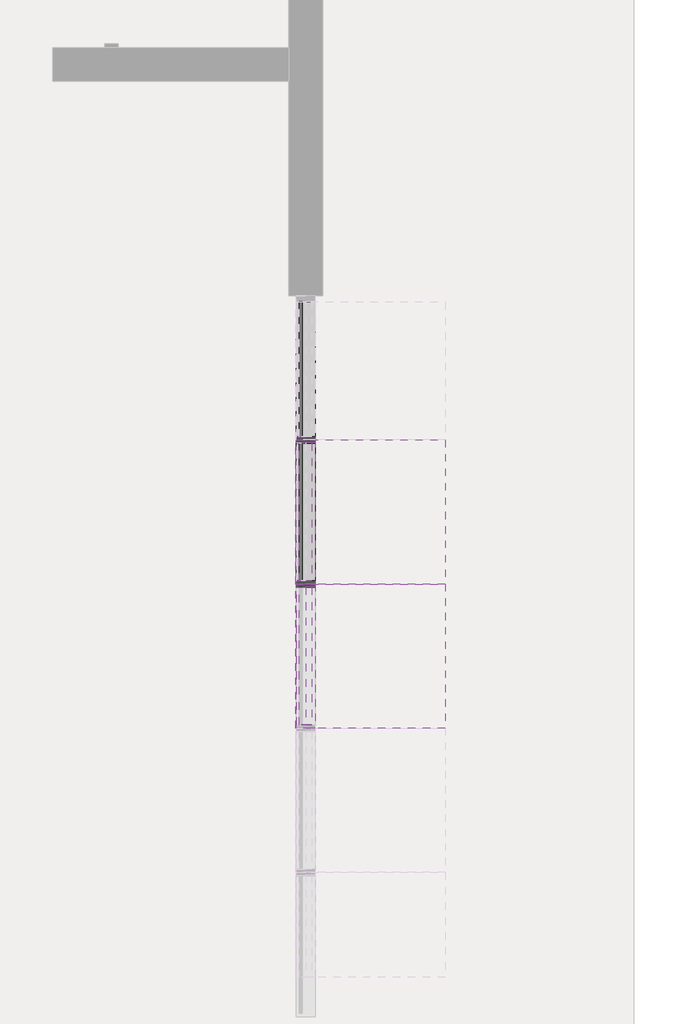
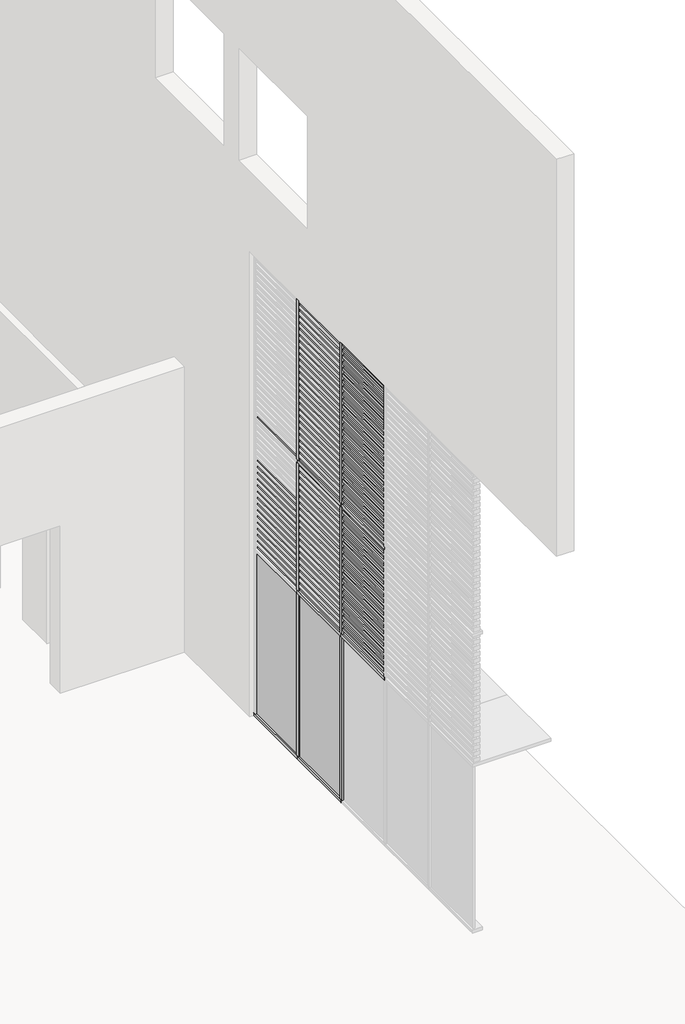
# One storey, part 6 of 8: 74 plates, 60 members.
"""IFC4 building model written with IfcOpenShell, lengths in millimetres."""

from ifc_helpers import new_model, si_unit, origin, place, context, project, spatial, transform, mapped, element, save
from components import rectangular_mullion_50_x_1200mm_b79d1996, rectangular_mullion_50_x_150mm_232fa5d8, rectangular_mullion_50_x_150mm_2c7bb3b8, rectangular_mullion_50_x_150mm_81a85930, rectangular_mullion_50_x_150mm_0b18dce2, rectangular_mullion_timber_70_x_35_2d2b050c, empty_system_panel_empty_6a0359b6, empty_system_panel_empty_0ae384b7, empty_system_panel_empty_f50b0574, empty_system_panel_empty_9ab0a9e8, system_panel_concept_glazed_32b225e3, system_panel_concept_glazed_5326a568

model = new_model("IFC4")

# Units and contexts
model_context = context("Model", 3, world=origin())
ifc_project = project(units=[si_unit("LENGTHUNIT", "METRE", prefix="MILLI")], contexts=[model_context])

# Site, building, storey
site = spatial("IfcSite", under=ifc_project)
building = spatial("IfcBuilding", under=site)
storey = spatial("IfcBuildingStorey", under=building, Name="0階", Elevation=25100.0)

# Members
placement = place(None, origin())
rectangular_mullion_50_x_1200mm_shape = rectangular_mullion_50_x_1200mm_b79d1996(model_context)
element("IfcMember", 1, ObjectType="Rectangular Mullion : 50 x 1200mm", at=placement, inside=storey, context=model_context, shape_type="MappedRepresentation", body=[
    mapped(rectangular_mullion_50_x_1200mm_shape, transform((45100.0, 6094.8041034, 27800.0), x_axis=(0.0, 0.0, 1.0), y_axis=(1.0, 0.0, 0.0), z_axis=(0.0, 1.0, 0.0))),
])
element("IfcMember", 2, ObjectType="Rectangular Mullion : 50 x 1200mm", at=placement, inside=storey, context=model_context, shape_type="MappedRepresentation", body=[
    mapped(rectangular_mullion_50_x_1200mm_shape, transform((45100.0, 7251.9469605, 27800.0), x_axis=(0.0, 0.0, 1.0), y_axis=(1.0, 0.0, 0.0), z_axis=(0.0, 1.0, 0.0))),
])
rectangular_mullion_50_x_150mm_shape = rectangular_mullion_50_x_150mm_232fa5d8(model_context)
element("IfcMember", 3, ObjectType="Rectangular Mullion : 50 x 150mm", at=placement, inside=storey, context=model_context, shape_type="MappedRepresentation", body=[
    mapped(rectangular_mullion_50_x_150mm_shape, transform((45100.0, 6094.8041034, 32600.0), x_axis=(0.0, 0.0, 1.0), y_axis=(1.0, 0.0, 0.0), z_axis=(0.0, 1.0, 0.0))),
])
element("IfcMember", 4, ObjectType="Rectangular Mullion : 50 x 150mm", at=placement, inside=storey, context=model_context, shape_type="MappedRepresentation", body=[
    mapped(rectangular_mullion_50_x_150mm_shape, transform((45100.0, 7251.9469605, 32600.0), x_axis=(0.0, 0.0, 1.0), y_axis=(1.0, 0.0, 0.0), z_axis=(0.0, 1.0, 0.0))),
])
element("IfcMember", 5, ObjectType="Rectangular Mullion : 50 x 150mm", at=placement, inside=storey, context=model_context, shape_type="MappedRepresentation", body=[
    mapped(rectangular_mullion_50_x_150mm_shape, transform((45100.0, 6094.8041034, 25100.0), x_axis=(0.0, 0.0, -1.0), y_axis=(1.0, 0.0, 0.0), z_axis=(0.0, -1.0, 0.0))),
])
element("IfcMember", 6, ObjectType="Rectangular Mullion : 50 x 150mm", at=placement, inside=storey, context=model_context, shape_type="MappedRepresentation", body=[
    mapped(rectangular_mullion_50_x_150mm_shape, transform((45100.0, 7251.9469605, 25100.0), x_axis=(0.0, 0.0, -1.0), y_axis=(1.0, 0.0, 0.0), z_axis=(0.0, -1.0, 0.0))),
])
rectangular_mullion_50_x_150mm_2_shape = rectangular_mullion_50_x_150mm_2c7bb3b8(model_context)
element("IfcMember", 7, ObjectType="Rectangular Mullion : 50 x 150mm", at=placement, inside=storey, context=model_context, shape_type="MappedRepresentation", body=[
    mapped(rectangular_mullion_50_x_150mm_2_shape, transform((45100.0, 6094.8041034, 25150.0), x_axis=(0.0, 1.0, 0.0), y_axis=(1.0, 0.0, 0.0), z_axis=(0.0, 0.0, -1.0))),
])
element("IfcMember", 8, ObjectType="Rectangular Mullion : 50 x 150mm", at=placement, inside=storey, context=model_context, shape_type="MappedRepresentation", body=[
    mapped(rectangular_mullion_50_x_150mm_2_shape, transform((45100.0, 7251.9469605, 25150.0), x_axis=(0.0, 1.0, 0.0), y_axis=(1.0, 0.0, 0.0), z_axis=(0.0, 0.0, -1.0))),
])
element("IfcMember", 9, ObjectType="Rectangular Mullion : 50 x 150mm", at=placement, inside=storey, context=model_context, shape_type="MappedRepresentation", body=[
    mapped(rectangular_mullion_50_x_150mm_2_shape, transform((45100.0, 6094.8041034, 29925.0), x_axis=(0.0, 1.0, 0.0), y_axis=(1.0, 0.0, 0.0), z_axis=(0.0, 0.0, -1.0))),
])
element("IfcMember", 10, ObjectType="Rectangular Mullion : 50 x 150mm", at=placement, inside=storey, context=model_context, shape_type="MappedRepresentation", body=[
    mapped(rectangular_mullion_50_x_150mm_2_shape, transform((45100.0, 7251.9469605, 29925.0), x_axis=(0.0, 1.0, 0.0), y_axis=(1.0, 0.0, 0.0), z_axis=(0.0, 0.0, -1.0))),
])
rectangular_mullion_50_x_150mm_3_shape = rectangular_mullion_50_x_150mm_81a85930(model_context)
element("IfcMember", 11, ObjectType="Rectangular Mullion : 50 x 150mm", at=placement, inside=storey, context=model_context, shape_type="MappedRepresentation", body=[
    mapped(rectangular_mullion_50_x_150mm_3_shape, transform((45100.0, 6094.8041034, 29900.0), x_axis=(0.0, 0.0, 1.0), y_axis=(1.0, 0.0, 0.0), z_axis=(0.0, 1.0, 0.0))),
])
element("IfcMember", 12, ObjectType="Rectangular Mullion : 50 x 150mm", at=placement, inside=storey, context=model_context, shape_type="MappedRepresentation", body=[
    mapped(rectangular_mullion_50_x_150mm_3_shape, transform((45100.0, 7251.9469605, 29900.0), x_axis=(0.0, 0.0, 1.0), y_axis=(1.0, 0.0, 0.0), z_axis=(0.0, 1.0, 0.0))),
])
rectangular_mullion_50_x_150mm_4_shape = rectangular_mullion_50_x_150mm_0b18dce2(model_context)
element("IfcMember", 13, ObjectType="Rectangular Mullion : 50 x 150mm", at=placement, inside=storey, context=model_context, shape_type="MappedRepresentation", body=[
    mapped(rectangular_mullion_50_x_150mm_4_shape, transform((45100.0, 6094.8041034, 27825.0), x_axis=(0.0, 1.0, 0.0), y_axis=(1.0, 0.0, 0.0), z_axis=(0.0, 0.0, -1.0))),
])
element("IfcMember", 14, ObjectType="Rectangular Mullion : 50 x 150mm", at=placement, inside=storey, context=model_context, shape_type="MappedRepresentation", body=[
    mapped(rectangular_mullion_50_x_150mm_4_shape, transform((45100.0, 7251.9469605, 27825.0), x_axis=(0.0, 1.0, 0.0), y_axis=(1.0, 0.0, 0.0), z_axis=(0.0, 0.0, -1.0))),
])
rectangular_mullion_timber_70_x_35_shape = rectangular_mullion_timber_70_x_35_2d2b050c(model_context)
element("IfcMember", 15, ObjectType="Rectangular Mullion : Timber - 70 x 35", at=placement, inside=storey, context=model_context, shape_type="MappedRepresentation", body=[
    mapped(rectangular_mullion_timber_70_x_35_shape, transform((45100.0, 6069.8041034, 27907.5), x_axis=(0.0, 0.0, 1.0), y_axis=(1.0, 0.0, 0.0), z_axis=(0.0, 1.0, 0.0))),
])
element("IfcMember", 16, ObjectType="Rectangular Mullion : Timber - 70 x 35", at=placement, inside=storey, context=model_context, shape_type="MappedRepresentation", body=[
    mapped(rectangular_mullion_timber_70_x_35_shape, transform((45100.0, 6069.8041034, 28007.5), x_axis=(0.0, 0.0, 1.0), y_axis=(1.0, 0.0, 0.0), z_axis=(0.0, 1.0, 0.0))),
])
element("IfcMember", 17, ObjectType="Rectangular Mullion : Timber - 70 x 35", at=placement, inside=storey, context=model_context, shape_type="MappedRepresentation", body=[
    mapped(rectangular_mullion_timber_70_x_35_shape, transform((45100.0, 6069.8041034, 28107.5), x_axis=(0.0, 0.0, 1.0), y_axis=(1.0, 0.0, 0.0), z_axis=(0.0, 1.0, 0.0))),
])
element("IfcMember", 18, ObjectType="Rectangular Mullion : Timber - 70 x 35", at=placement, inside=storey, context=model_context, shape_type="MappedRepresentation", body=[
    mapped(rectangular_mullion_timber_70_x_35_shape, transform((45100.0, 6069.8041034, 28207.5), x_axis=(0.0, 0.0, 1.0), y_axis=(1.0, 0.0, 0.0), z_axis=(0.0, 1.0, 0.0))),
])
element("IfcMember", 19, ObjectType="Rectangular Mullion : Timber - 70 x 35", at=placement, inside=storey, context=model_context, shape_type="MappedRepresentation", body=[
    mapped(rectangular_mullion_timber_70_x_35_shape, transform((45100.0, 6069.8041034, 28307.5), x_axis=(0.0, 0.0, 1.0), y_axis=(1.0, 0.0, 0.0), z_axis=(0.0, 1.0, 0.0))),
])
element("IfcMember", 20, ObjectType="Rectangular Mullion : Timber - 70 x 35", at=placement, inside=storey, context=model_context, shape_type="MappedRepresentation", body=[
    mapped(rectangular_mullion_timber_70_x_35_shape, transform((45100.0, 6069.8041034, 28407.5), x_axis=(0.0, 0.0, 1.0), y_axis=(1.0, 0.0, 0.0), z_axis=(0.0, 1.0, 0.0))),
])
element("IfcMember", 21, ObjectType="Rectangular Mullion : Timber - 70 x 35", at=placement, inside=storey, context=model_context, shape_type="MappedRepresentation", body=[
    mapped(rectangular_mullion_timber_70_x_35_shape, transform((45100.0, 6069.8041034, 28507.5), x_axis=(0.0, 0.0, 1.0), y_axis=(1.0, 0.0, 0.0), z_axis=(0.0, 1.0, 0.0))),
])
element("IfcMember", 22, ObjectType="Rectangular Mullion : Timber - 70 x 35", at=placement, inside=storey, context=model_context, shape_type="MappedRepresentation", body=[
    mapped(rectangular_mullion_timber_70_x_35_shape, transform((45100.0, 6069.8041034, 28607.5), x_axis=(0.0, 0.0, 1.0), y_axis=(1.0, 0.0, 0.0), z_axis=(0.0, 1.0, 0.0))),
])
element("IfcMember", 23, ObjectType="Rectangular Mullion : Timber - 70 x 35", at=placement, inside=storey, context=model_context, shape_type="MappedRepresentation", body=[
    mapped(rectangular_mullion_timber_70_x_35_shape, transform((45100.0, 6069.8041034, 28707.5), x_axis=(0.0, 0.0, 1.0), y_axis=(1.0, 0.0, 0.0), z_axis=(0.0, 1.0, 0.0))),
])
element("IfcMember", 24, ObjectType="Rectangular Mullion : Timber - 70 x 35", at=placement, inside=storey, context=model_context, shape_type="MappedRepresentation", body=[
    mapped(rectangular_mullion_timber_70_x_35_shape, transform((45100.0, 6069.8041034, 28807.5), x_axis=(0.0, 0.0, 1.0), y_axis=(1.0, 0.0, 0.0), z_axis=(0.0, 1.0, 0.0))),
])
element("IfcMember", 25, ObjectType="Rectangular Mullion : Timber - 70 x 35", at=placement, inside=storey, context=model_context, shape_type="MappedRepresentation", body=[
    mapped(rectangular_mullion_timber_70_x_35_shape, transform((45100.0, 6069.8041034, 28907.5), x_axis=(0.0, 0.0, 1.0), y_axis=(1.0, 0.0, 0.0), z_axis=(0.0, 1.0, 0.0))),
])
element("IfcMember", 26, ObjectType="Rectangular Mullion : Timber - 70 x 35", at=placement, inside=storey, context=model_context, shape_type="MappedRepresentation", body=[
    mapped(rectangular_mullion_timber_70_x_35_shape, transform((45100.0, 6069.8041034, 29007.5), x_axis=(0.0, 0.0, 1.0), y_axis=(1.0, 0.0, 0.0), z_axis=(0.0, 1.0, 0.0))),
])
element("IfcMember", 27, ObjectType="Rectangular Mullion : Timber - 70 x 35", at=placement, inside=storey, context=model_context, shape_type="MappedRepresentation", body=[
    mapped(rectangular_mullion_timber_70_x_35_shape, transform((45100.0, 6069.8041034, 29107.5), x_axis=(0.0, 0.0, 1.0), y_axis=(1.0, 0.0, 0.0), z_axis=(0.0, 1.0, 0.0))),
])
element("IfcMember", 28, ObjectType="Rectangular Mullion : Timber - 70 x 35", at=placement, inside=storey, context=model_context, shape_type="MappedRepresentation", body=[
    mapped(rectangular_mullion_timber_70_x_35_shape, transform((45100.0, 6069.8041034, 29207.5), x_axis=(0.0, 0.0, 1.0), y_axis=(1.0, 0.0, 0.0), z_axis=(0.0, 1.0, 0.0))),
])
element("IfcMember", 29, ObjectType="Rectangular Mullion : Timber - 70 x 35", at=placement, inside=storey, context=model_context, shape_type="MappedRepresentation", body=[
    mapped(rectangular_mullion_timber_70_x_35_shape, transform((45100.0, 6069.8041034, 29307.5), x_axis=(0.0, 0.0, 1.0), y_axis=(1.0, 0.0, 0.0), z_axis=(0.0, 1.0, 0.0))),
])
element("IfcMember", 30, ObjectType="Rectangular Mullion : Timber - 70 x 35", at=placement, inside=storey, context=model_context, shape_type="MappedRepresentation", body=[
    mapped(rectangular_mullion_timber_70_x_35_shape, transform((45100.0, 6069.8041034, 29407.5), x_axis=(0.0, 0.0, 1.0), y_axis=(1.0, 0.0, 0.0), z_axis=(0.0, 1.0, 0.0))),
])
element("IfcMember", 31, ObjectType="Rectangular Mullion : Timber - 70 x 35", at=placement, inside=storey, context=model_context, shape_type="MappedRepresentation", body=[
    mapped(rectangular_mullion_timber_70_x_35_shape, transform((45100.0, 6069.8041034, 29507.5), x_axis=(0.0, 0.0, 1.0), y_axis=(1.0, 0.0, 0.0), z_axis=(0.0, 1.0, 0.0))),
])
element("IfcMember", 32, ObjectType="Rectangular Mullion : Timber - 70 x 35", at=placement, inside=storey, context=model_context, shape_type="MappedRepresentation", body=[
    mapped(rectangular_mullion_timber_70_x_35_shape, transform((45100.0, 6069.8041034, 29607.5), x_axis=(0.0, 0.0, 1.0), y_axis=(1.0, 0.0, 0.0), z_axis=(0.0, 1.0, 0.0))),
])
element("IfcMember", 33, ObjectType="Rectangular Mullion : Timber - 70 x 35", at=placement, inside=storey, context=model_context, shape_type="MappedRepresentation", body=[
    mapped(rectangular_mullion_timber_70_x_35_shape, transform((45100.0, 6069.8041034, 29707.5), x_axis=(0.0, 0.0, 1.0), y_axis=(1.0, 0.0, 0.0), z_axis=(0.0, 1.0, 0.0))),
])
element("IfcMember", 34, ObjectType="Rectangular Mullion : Timber - 70 x 35", at=placement, inside=storey, context=model_context, shape_type="MappedRepresentation", body=[
    mapped(rectangular_mullion_timber_70_x_35_shape, transform((45100.0, 6069.8041034, 29807.5), x_axis=(0.0, 0.0, 1.0), y_axis=(1.0, 0.0, 0.0), z_axis=(0.0, 1.0, 0.0))),
])
element("IfcMember", 35, ObjectType="Rectangular Mullion : Timber - 70 x 35", at=placement, inside=storey, context=model_context, shape_type="MappedRepresentation", body=[
    mapped(rectangular_mullion_timber_70_x_35_shape, transform((45100.0, 6069.8041034, 30007.5), x_axis=(0.0, 0.0, 1.0), y_axis=(1.0, 0.0, 0.0), z_axis=(0.0, 1.0, 0.0))),
])
element("IfcMember", 36, ObjectType="Rectangular Mullion : Timber - 70 x 35", at=placement, inside=storey, context=model_context, shape_type="MappedRepresentation", body=[
    mapped(rectangular_mullion_timber_70_x_35_shape, transform((45100.0, 6069.8041034, 30107.5), x_axis=(0.0, 0.0, 1.0), y_axis=(1.0, 0.0, 0.0), z_axis=(0.0, 1.0, 0.0))),
])
element("IfcMember", 37, ObjectType="Rectangular Mullion : Timber - 70 x 35", at=placement, inside=storey, context=model_context, shape_type="MappedRepresentation", body=[
    mapped(rectangular_mullion_timber_70_x_35_shape, transform((45100.0, 6069.8041034, 30207.5), x_axis=(0.0, 0.0, 1.0), y_axis=(1.0, 0.0, 0.0), z_axis=(0.0, 1.0, 0.0))),
])
element("IfcMember", 38, ObjectType="Rectangular Mullion : Timber - 70 x 35", at=placement, inside=storey, context=model_context, shape_type="MappedRepresentation", body=[
    mapped(rectangular_mullion_timber_70_x_35_shape, transform((45100.0, 6069.8041034, 30307.5), x_axis=(0.0, 0.0, 1.0), y_axis=(1.0, 0.0, 0.0), z_axis=(0.0, 1.0, 0.0))),
])
element("IfcMember", 39, ObjectType="Rectangular Mullion : Timber - 70 x 35", at=placement, inside=storey, context=model_context, shape_type="MappedRepresentation", body=[
    mapped(rectangular_mullion_timber_70_x_35_shape, transform((45100.0, 6069.8041034, 30407.5), x_axis=(0.0, 0.0, 1.0), y_axis=(1.0, 0.0, 0.0), z_axis=(0.0, 1.0, 0.0))),
])
element("IfcMember", 40, ObjectType="Rectangular Mullion : Timber - 70 x 35", at=placement, inside=storey, context=model_context, shape_type="MappedRepresentation", body=[
    mapped(rectangular_mullion_timber_70_x_35_shape, transform((45100.0, 6069.8041034, 30507.5), x_axis=(0.0, 0.0, 1.0), y_axis=(1.0, 0.0, 0.0), z_axis=(0.0, 1.0, 0.0))),
])
element("IfcMember", 41, ObjectType="Rectangular Mullion : Timber - 70 x 35", at=placement, inside=storey, context=model_context, shape_type="MappedRepresentation", body=[
    mapped(rectangular_mullion_timber_70_x_35_shape, transform((45100.0, 6069.8041034, 30607.5), x_axis=(0.0, 0.0, 1.0), y_axis=(1.0, 0.0, 0.0), z_axis=(0.0, 1.0, 0.0))),
])
element("IfcMember", 42, ObjectType="Rectangular Mullion : Timber - 70 x 35", at=placement, inside=storey, context=model_context, shape_type="MappedRepresentation", body=[
    mapped(rectangular_mullion_timber_70_x_35_shape, transform((45100.0, 6069.8041034, 30707.5), x_axis=(0.0, 0.0, 1.0), y_axis=(1.0, 0.0, 0.0), z_axis=(0.0, 1.0, 0.0))),
])
element("IfcMember", 43, ObjectType="Rectangular Mullion : Timber - 70 x 35", at=placement, inside=storey, context=model_context, shape_type="MappedRepresentation", body=[
    mapped(rectangular_mullion_timber_70_x_35_shape, transform((45100.0, 6069.8041034, 30807.5), x_axis=(0.0, 0.0, 1.0), y_axis=(1.0, 0.0, 0.0), z_axis=(0.0, 1.0, 0.0))),
])
element("IfcMember", 44, ObjectType="Rectangular Mullion : Timber - 70 x 35", at=placement, inside=storey, context=model_context, shape_type="MappedRepresentation", body=[
    mapped(rectangular_mullion_timber_70_x_35_shape, transform((45100.0, 6069.8041034, 30907.5), x_axis=(0.0, 0.0, 1.0), y_axis=(1.0, 0.0, 0.0), z_axis=(0.0, 1.0, 0.0))),
])
element("IfcMember", 45, ObjectType="Rectangular Mullion : Timber - 70 x 35", at=placement, inside=storey, context=model_context, shape_type="MappedRepresentation", body=[
    mapped(rectangular_mullion_timber_70_x_35_shape, transform((45100.0, 6069.8041034, 31007.5), x_axis=(0.0, 0.0, 1.0), y_axis=(1.0, 0.0, 0.0), z_axis=(0.0, 1.0, 0.0))),
])
element("IfcMember", 46, ObjectType="Rectangular Mullion : Timber - 70 x 35", at=placement, inside=storey, context=model_context, shape_type="MappedRepresentation", body=[
    mapped(rectangular_mullion_timber_70_x_35_shape, transform((45100.0, 6069.8041034, 31107.5), x_axis=(0.0, 0.0, 1.0), y_axis=(1.0, 0.0, 0.0), z_axis=(0.0, 1.0, 0.0))),
])
element("IfcMember", 47, ObjectType="Rectangular Mullion : Timber - 70 x 35", at=placement, inside=storey, context=model_context, shape_type="MappedRepresentation", body=[
    mapped(rectangular_mullion_timber_70_x_35_shape, transform((45100.0, 6069.8041034, 31207.5), x_axis=(0.0, 0.0, 1.0), y_axis=(1.0, 0.0, 0.0), z_axis=(0.0, 1.0, 0.0))),
])
element("IfcMember", 48, ObjectType="Rectangular Mullion : Timber - 70 x 35", at=placement, inside=storey, context=model_context, shape_type="MappedRepresentation", body=[
    mapped(rectangular_mullion_timber_70_x_35_shape, transform((45100.0, 6069.8041034, 31307.5), x_axis=(0.0, 0.0, 1.0), y_axis=(1.0, 0.0, 0.0), z_axis=(0.0, 1.0, 0.0))),
])
element("IfcMember", 49, ObjectType="Rectangular Mullion : Timber - 70 x 35", at=placement, inside=storey, context=model_context, shape_type="MappedRepresentation", body=[
    mapped(rectangular_mullion_timber_70_x_35_shape, transform((45100.0, 6069.8041034, 31407.5), x_axis=(0.0, 0.0, 1.0), y_axis=(1.0, 0.0, 0.0), z_axis=(0.0, 1.0, 0.0))),
])
element("IfcMember", 50, ObjectType="Rectangular Mullion : Timber - 70 x 35", at=placement, inside=storey, context=model_context, shape_type="MappedRepresentation", body=[
    mapped(rectangular_mullion_timber_70_x_35_shape, transform((45100.0, 6069.8041034, 31507.5), x_axis=(0.0, 0.0, 1.0), y_axis=(1.0, 0.0, 0.0), z_axis=(0.0, 1.0, 0.0))),
])
element("IfcMember", 51, ObjectType="Rectangular Mullion : Timber - 70 x 35", at=placement, inside=storey, context=model_context, shape_type="MappedRepresentation", body=[
    mapped(rectangular_mullion_timber_70_x_35_shape, transform((45100.0, 6069.8041034, 31607.5), x_axis=(0.0, 0.0, 1.0), y_axis=(1.0, 0.0, 0.0), z_axis=(0.0, 1.0, 0.0))),
])
element("IfcMember", 52, ObjectType="Rectangular Mullion : Timber - 70 x 35", at=placement, inside=storey, context=model_context, shape_type="MappedRepresentation", body=[
    mapped(rectangular_mullion_timber_70_x_35_shape, transform((45100.0, 6069.8041034, 31707.5), x_axis=(0.0, 0.0, 1.0), y_axis=(1.0, 0.0, 0.0), z_axis=(0.0, 1.0, 0.0))),
])
element("IfcMember", 53, ObjectType="Rectangular Mullion : Timber - 70 x 35", at=placement, inside=storey, context=model_context, shape_type="MappedRepresentation", body=[
    mapped(rectangular_mullion_timber_70_x_35_shape, transform((45100.0, 6069.8041034, 31807.5), x_axis=(0.0, 0.0, 1.0), y_axis=(1.0, 0.0, 0.0), z_axis=(0.0, 1.0, 0.0))),
])
element("IfcMember", 54, ObjectType="Rectangular Mullion : Timber - 70 x 35", at=placement, inside=storey, context=model_context, shape_type="MappedRepresentation", body=[
    mapped(rectangular_mullion_timber_70_x_35_shape, transform((45100.0, 6069.8041034, 31907.5), x_axis=(0.0, 0.0, 1.0), y_axis=(1.0, 0.0, 0.0), z_axis=(0.0, 1.0, 0.0))),
])
element("IfcMember", 55, ObjectType="Rectangular Mullion : Timber - 70 x 35", at=placement, inside=storey, context=model_context, shape_type="MappedRepresentation", body=[
    mapped(rectangular_mullion_timber_70_x_35_shape, transform((45100.0, 6069.8041034, 32007.5), x_axis=(0.0, 0.0, 1.0), y_axis=(1.0, 0.0, 0.0), z_axis=(0.0, 1.0, 0.0))),
])
element("IfcMember", 56, ObjectType="Rectangular Mullion : Timber - 70 x 35", at=placement, inside=storey, context=model_context, shape_type="MappedRepresentation", body=[
    mapped(rectangular_mullion_timber_70_x_35_shape, transform((45100.0, 6069.8041034, 32107.5), x_axis=(0.0, 0.0, 1.0), y_axis=(1.0, 0.0, 0.0), z_axis=(0.0, 1.0, 0.0))),
])
element("IfcMember", 57, ObjectType="Rectangular Mullion : Timber - 70 x 35", at=placement, inside=storey, context=model_context, shape_type="MappedRepresentation", body=[
    mapped(rectangular_mullion_timber_70_x_35_shape, transform((45100.0, 6069.8041034, 32207.5), x_axis=(0.0, 0.0, 1.0), y_axis=(1.0, 0.0, 0.0), z_axis=(0.0, 1.0, 0.0))),
])
element("IfcMember", 58, ObjectType="Rectangular Mullion : Timber - 70 x 35", at=placement, inside=storey, context=model_context, shape_type="MappedRepresentation", body=[
    mapped(rectangular_mullion_timber_70_x_35_shape, transform((45100.0, 6069.8041034, 32307.5), x_axis=(0.0, 0.0, 1.0), y_axis=(1.0, 0.0, 0.0), z_axis=(0.0, 1.0, 0.0))),
])
element("IfcMember", 59, ObjectType="Rectangular Mullion : Timber - 70 x 35", at=placement, inside=storey, context=model_context, shape_type="MappedRepresentation", body=[
    mapped(rectangular_mullion_timber_70_x_35_shape, transform((45100.0, 6069.8041034, 32407.5), x_axis=(0.0, 0.0, 1.0), y_axis=(1.0, 0.0, 0.0), z_axis=(0.0, 1.0, 0.0))),
])
element("IfcMember", 60, ObjectType="Rectangular Mullion : Timber - 70 x 35", at=placement, inside=storey, context=model_context, shape_type="MappedRepresentation", body=[
    mapped(rectangular_mullion_timber_70_x_35_shape, transform((45100.0, 6069.8041034, 32507.5), x_axis=(0.0, 0.0, 1.0), y_axis=(1.0, 0.0, 0.0), z_axis=(0.0, 1.0, 0.0))),
])

# Plates
empty_system_panel_empty_shape = empty_system_panel_empty_6a0359b6(model_context)
element("IfcPlate", 61, ObjectType="Empty System Panel : Empty", at=placement, inside=storey, context=model_context, shape_type="MappedRepresentation", body=[
    mapped(empty_system_panel_empty_shape, transform((45100.0, 7818.0183891, 27825.0), x_axis=(0.0, 1.0, 0.0), y_axis=(-1.0, 0.0, 0.0), z_axis=(0.0, 0.0, 1.0))),
])
element("IfcPlate", 62, ObjectType="Empty System Panel : Empty", at=placement, inside=storey, context=model_context, shape_type="MappedRepresentation", body=[
    mapped(empty_system_panel_empty_shape, transform((45100.0, 7818.0183891, 29925.0), x_axis=(0.0, 1.0, 0.0), y_axis=(-1.0, 0.0, 0.0), z_axis=(0.0, 0.0, 1.0))),
])
element("IfcPlate", 63, ObjectType="Empty System Panel : Empty", at=placement, inside=storey, context=model_context, shape_type="MappedRepresentation", body=[
    mapped(empty_system_panel_empty_shape, transform((45100.0, 7818.0183891, 27925.0), x_axis=(0.0, 1.0, 0.0), y_axis=(-1.0, 0.0, 0.0), z_axis=(0.0, 0.0, 1.0))),
])
element("IfcPlate", 64, ObjectType="Empty System Panel : Empty", at=placement, inside=storey, context=model_context, shape_type="MappedRepresentation", body=[
    mapped(empty_system_panel_empty_shape, transform((45100.0, 7818.0183891, 28025.0), x_axis=(0.0, 1.0, 0.0), y_axis=(-1.0, 0.0, 0.0), z_axis=(0.0, 0.0, 1.0))),
])
element("IfcPlate", 65, ObjectType="Empty System Panel : Empty", at=placement, inside=storey, context=model_context, shape_type="MappedRepresentation", body=[
    mapped(empty_system_panel_empty_shape, transform((45100.0, 7818.0183891, 28125.0), x_axis=(0.0, 1.0, 0.0), y_axis=(-1.0, 0.0, 0.0), z_axis=(0.0, 0.0, 1.0))),
])
element("IfcPlate", 66, ObjectType="Empty System Panel : Empty", at=placement, inside=storey, context=model_context, shape_type="MappedRepresentation", body=[
    mapped(empty_system_panel_empty_shape, transform((45100.0, 7818.0183891, 28225.0), x_axis=(0.0, 1.0, 0.0), y_axis=(-1.0, 0.0, 0.0), z_axis=(0.0, 0.0, 1.0))),
])
element("IfcPlate", 67, ObjectType="Empty System Panel : Empty", at=placement, inside=storey, context=model_context, shape_type="MappedRepresentation", body=[
    mapped(empty_system_panel_empty_shape, transform((45100.0, 7818.0183891, 28325.0), x_axis=(0.0, 1.0, 0.0), y_axis=(-1.0, 0.0, 0.0), z_axis=(0.0, 0.0, 1.0))),
])
element("IfcPlate", 68, ObjectType="Empty System Panel : Empty", at=placement, inside=storey, context=model_context, shape_type="MappedRepresentation", body=[
    mapped(empty_system_panel_empty_shape, transform((45100.0, 7818.0183891, 28425.0), x_axis=(0.0, 1.0, 0.0), y_axis=(-1.0, 0.0, 0.0), z_axis=(0.0, 0.0, 1.0))),
])
element("IfcPlate", 69, ObjectType="Empty System Panel : Empty", at=placement, inside=storey, context=model_context, shape_type="MappedRepresentation", body=[
    mapped(empty_system_panel_empty_shape, transform((45100.0, 7818.0183891, 28525.0), x_axis=(0.0, 1.0, 0.0), y_axis=(-1.0, 0.0, 0.0), z_axis=(0.0, 0.0, 1.0))),
])
element("IfcPlate", 70, ObjectType="Empty System Panel : Empty", at=placement, inside=storey, context=model_context, shape_type="MappedRepresentation", body=[
    mapped(empty_system_panel_empty_shape, transform((45100.0, 7818.0183891, 28625.0), x_axis=(0.0, 1.0, 0.0), y_axis=(-1.0, 0.0, 0.0), z_axis=(0.0, 0.0, 1.0))),
])
element("IfcPlate", 71, ObjectType="Empty System Panel : Empty", at=placement, inside=storey, context=model_context, shape_type="MappedRepresentation", body=[
    mapped(empty_system_panel_empty_shape, transform((45100.0, 7818.0183891, 28725.0), x_axis=(0.0, 1.0, 0.0), y_axis=(-1.0, 0.0, 0.0), z_axis=(0.0, 0.0, 1.0))),
])
element("IfcPlate", 72, ObjectType="Empty System Panel : Empty", at=placement, inside=storey, context=model_context, shape_type="MappedRepresentation", body=[
    mapped(empty_system_panel_empty_shape, transform((45100.0, 7818.0183891, 28825.0), x_axis=(0.0, 1.0, 0.0), y_axis=(-1.0, 0.0, 0.0), z_axis=(0.0, 0.0, 1.0))),
])
element("IfcPlate", 73, ObjectType="Empty System Panel : Empty", at=placement, inside=storey, context=model_context, shape_type="MappedRepresentation", body=[
    mapped(empty_system_panel_empty_shape, transform((45100.0, 7818.0183891, 28925.0), x_axis=(0.0, 1.0, 0.0), y_axis=(-1.0, 0.0, 0.0), z_axis=(0.0, 0.0, 1.0))),
])
element("IfcPlate", 74, ObjectType="Empty System Panel : Empty", at=placement, inside=storey, context=model_context, shape_type="MappedRepresentation", body=[
    mapped(empty_system_panel_empty_shape, transform((45100.0, 7818.0183891, 29025.0), x_axis=(0.0, 1.0, 0.0), y_axis=(-1.0, 0.0, 0.0), z_axis=(0.0, 0.0, 1.0))),
])
element("IfcPlate", 75, ObjectType="Empty System Panel : Empty", at=placement, inside=storey, context=model_context, shape_type="MappedRepresentation", body=[
    mapped(empty_system_panel_empty_shape, transform((45100.0, 7818.0183891, 29125.0), x_axis=(0.0, 1.0, 0.0), y_axis=(-1.0, 0.0, 0.0), z_axis=(0.0, 0.0, 1.0))),
])
element("IfcPlate", 76, ObjectType="Empty System Panel : Empty", at=placement, inside=storey, context=model_context, shape_type="MappedRepresentation", body=[
    mapped(empty_system_panel_empty_shape, transform((45100.0, 7818.0183891, 29225.0), x_axis=(0.0, 1.0, 0.0), y_axis=(-1.0, 0.0, 0.0), z_axis=(0.0, 0.0, 1.0))),
])
empty_system_panel_empty_2_shape = empty_system_panel_empty_0ae384b7(model_context)
element("IfcPlate", 77, ObjectType="Empty System Panel : Empty", at=placement, inside=storey, context=model_context, shape_type="MappedRepresentation", body=[
    mapped(empty_system_panel_empty_2_shape, transform((45100.0, 6673.3755319, 29825.0), x_axis=(0.0, 1.0, 0.0), y_axis=(-1.0, 0.0, 0.0), z_axis=(0.0, 0.0, 1.0))),
])
empty_system_panel_empty_3_shape = empty_system_panel_empty_f50b0574(model_context)
element("IfcPlate", 78, ObjectType="Empty System Panel : Empty", at=placement, inside=storey, context=model_context, shape_type="MappedRepresentation", body=[
    mapped(empty_system_panel_empty_3_shape, transform((45100.0, 5516.2326748, 32525.0), x_axis=(0.0, 1.0, 0.0), y_axis=(-1.0, 0.0, 0.0), z_axis=(0.0, 0.0, 1.0))),
])
element("IfcPlate", 79, ObjectType="Empty System Panel : Empty", at=placement, inside=storey, context=model_context, shape_type="MappedRepresentation", body=[
    mapped(empty_system_panel_empty_3_shape, transform((45100.0, 6673.3755319, 32525.0), x_axis=(0.0, 1.0, 0.0), y_axis=(-1.0, 0.0, 0.0), z_axis=(0.0, 0.0, 1.0))),
])
empty_system_panel_empty_4_shape = empty_system_panel_empty_9ab0a9e8(model_context)
element("IfcPlate", 80, ObjectType="Empty System Panel : Empty", at=placement, inside=storey, context=model_context, shape_type="MappedRepresentation", body=[
    mapped(empty_system_panel_empty_4_shape, transform((45100.0, 6673.3755319, 27825.0), x_axis=(0.0, 1.0, 0.0), y_axis=(-1.0, 0.0, 0.0), z_axis=(0.0, 0.0, 1.0))),
])
element("IfcPlate", 81, ObjectType="Empty System Panel : Empty", at=placement, inside=storey, context=model_context, shape_type="MappedRepresentation", body=[
    mapped(empty_system_panel_empty_4_shape, transform((45100.0, 6673.3755319, 29925.0), x_axis=(0.0, 1.0, 0.0), y_axis=(-1.0, 0.0, 0.0), z_axis=(0.0, 0.0, 1.0))),
])
element("IfcPlate", 82, ObjectType="Empty System Panel : Empty", at=placement, inside=storey, context=model_context, shape_type="MappedRepresentation", body=[
    mapped(empty_system_panel_empty_4_shape, transform((45100.0, 6673.3755319, 27925.0), x_axis=(0.0, 1.0, 0.0), y_axis=(-1.0, 0.0, 0.0), z_axis=(0.0, 0.0, 1.0))),
])
element("IfcPlate", 83, ObjectType="Empty System Panel : Empty", at=placement, inside=storey, context=model_context, shape_type="MappedRepresentation", body=[
    mapped(empty_system_panel_empty_4_shape, transform((45100.0, 6673.3755319, 28025.0), x_axis=(0.0, 1.0, 0.0), y_axis=(-1.0, 0.0, 0.0), z_axis=(0.0, 0.0, 1.0))),
])
element("IfcPlate", 84, ObjectType="Empty System Panel : Empty", at=placement, inside=storey, context=model_context, shape_type="MappedRepresentation", body=[
    mapped(empty_system_panel_empty_4_shape, transform((45100.0, 6673.3755319, 28125.0), x_axis=(0.0, 1.0, 0.0), y_axis=(-1.0, 0.0, 0.0), z_axis=(0.0, 0.0, 1.0))),
])
element("IfcPlate", 85, ObjectType="Empty System Panel : Empty", at=placement, inside=storey, context=model_context, shape_type="MappedRepresentation", body=[
    mapped(empty_system_panel_empty_4_shape, transform((45100.0, 6673.3755319, 28225.0), x_axis=(0.0, 1.0, 0.0), y_axis=(-1.0, 0.0, 0.0), z_axis=(0.0, 0.0, 1.0))),
])
element("IfcPlate", 86, ObjectType="Empty System Panel : Empty", at=placement, inside=storey, context=model_context, shape_type="MappedRepresentation", body=[
    mapped(empty_system_panel_empty_4_shape, transform((45100.0, 6673.3755319, 28325.0), x_axis=(0.0, 1.0, 0.0), y_axis=(-1.0, 0.0, 0.0), z_axis=(0.0, 0.0, 1.0))),
])
element("IfcPlate", 87, ObjectType="Empty System Panel : Empty", at=placement, inside=storey, context=model_context, shape_type="MappedRepresentation", body=[
    mapped(empty_system_panel_empty_4_shape, transform((45100.0, 6673.3755319, 28425.0), x_axis=(0.0, 1.0, 0.0), y_axis=(-1.0, 0.0, 0.0), z_axis=(0.0, 0.0, 1.0))),
])
element("IfcPlate", 88, ObjectType="Empty System Panel : Empty", at=placement, inside=storey, context=model_context, shape_type="MappedRepresentation", body=[
    mapped(empty_system_panel_empty_4_shape, transform((45100.0, 6673.3755319, 28525.0), x_axis=(0.0, 1.0, 0.0), y_axis=(-1.0, 0.0, 0.0), z_axis=(0.0, 0.0, 1.0))),
])
element("IfcPlate", 89, ObjectType="Empty System Panel : Empty", at=placement, inside=storey, context=model_context, shape_type="MappedRepresentation", body=[
    mapped(empty_system_panel_empty_4_shape, transform((45100.0, 6673.3755319, 28625.0), x_axis=(0.0, 1.0, 0.0), y_axis=(-1.0, 0.0, 0.0), z_axis=(0.0, 0.0, 1.0))),
])
element("IfcPlate", 90, ObjectType="Empty System Panel : Empty", at=placement, inside=storey, context=model_context, shape_type="MappedRepresentation", body=[
    mapped(empty_system_panel_empty_4_shape, transform((45100.0, 6673.3755319, 28725.0), x_axis=(0.0, 1.0, 0.0), y_axis=(-1.0, 0.0, 0.0), z_axis=(0.0, 0.0, 1.0))),
])
element("IfcPlate", 91, ObjectType="Empty System Panel : Empty", at=placement, inside=storey, context=model_context, shape_type="MappedRepresentation", body=[
    mapped(empty_system_panel_empty_4_shape, transform((45100.0, 6673.3755319, 28825.0), x_axis=(0.0, 1.0, 0.0), y_axis=(-1.0, 0.0, 0.0), z_axis=(0.0, 0.0, 1.0))),
])
element("IfcPlate", 92, ObjectType="Empty System Panel : Empty", at=placement, inside=storey, context=model_context, shape_type="MappedRepresentation", body=[
    mapped(empty_system_panel_empty_4_shape, transform((45100.0, 6673.3755319, 28925.0), x_axis=(0.0, 1.0, 0.0), y_axis=(-1.0, 0.0, 0.0), z_axis=(0.0, 0.0, 1.0))),
])
element("IfcPlate", 93, ObjectType="Empty System Panel : Empty", at=placement, inside=storey, context=model_context, shape_type="MappedRepresentation", body=[
    mapped(empty_system_panel_empty_4_shape, transform((45100.0, 6673.3755319, 29025.0), x_axis=(0.0, 1.0, 0.0), y_axis=(-1.0, 0.0, 0.0), z_axis=(0.0, 0.0, 1.0))),
])
element("IfcPlate", 94, ObjectType="Empty System Panel : Empty", at=placement, inside=storey, context=model_context, shape_type="MappedRepresentation", body=[
    mapped(empty_system_panel_empty_4_shape, transform((45100.0, 6673.3755319, 29125.0), x_axis=(0.0, 1.0, 0.0), y_axis=(-1.0, 0.0, 0.0), z_axis=(0.0, 0.0, 1.0))),
])
element("IfcPlate", 95, ObjectType="Empty System Panel : Empty", at=placement, inside=storey, context=model_context, shape_type="MappedRepresentation", body=[
    mapped(empty_system_panel_empty_4_shape, transform((45100.0, 6673.3755319, 29225.0), x_axis=(0.0, 1.0, 0.0), y_axis=(-1.0, 0.0, 0.0), z_axis=(0.0, 0.0, 1.0))),
])
element("IfcPlate", 96, ObjectType="Empty System Panel : Empty", at=placement, inside=storey, context=model_context, shape_type="MappedRepresentation", body=[
    mapped(empty_system_panel_empty_4_shape, transform((45100.0, 6673.3755319, 29325.0), x_axis=(0.0, 1.0, 0.0), y_axis=(-1.0, 0.0, 0.0), z_axis=(0.0, 0.0, 1.0))),
])
element("IfcPlate", 97, ObjectType="Empty System Panel : Empty", at=placement, inside=storey, context=model_context, shape_type="MappedRepresentation", body=[
    mapped(empty_system_panel_empty_4_shape, transform((45100.0, 6673.3755319, 29425.0), x_axis=(0.0, 1.0, 0.0), y_axis=(-1.0, 0.0, 0.0), z_axis=(0.0, 0.0, 1.0))),
])
element("IfcPlate", 98, ObjectType="Empty System Panel : Empty", at=placement, inside=storey, context=model_context, shape_type="MappedRepresentation", body=[
    mapped(empty_system_panel_empty_4_shape, transform((45100.0, 6673.3755319, 29525.0), x_axis=(0.0, 1.0, 0.0), y_axis=(-1.0, 0.0, 0.0), z_axis=(0.0, 0.0, 1.0))),
])
element("IfcPlate", 99, ObjectType="Empty System Panel : Empty", at=placement, inside=storey, context=model_context, shape_type="MappedRepresentation", body=[
    mapped(empty_system_panel_empty_4_shape, transform((45100.0, 6673.3755319, 29625.0), x_axis=(0.0, 1.0, 0.0), y_axis=(-1.0, 0.0, 0.0), z_axis=(0.0, 0.0, 1.0))),
])
element("IfcPlate", 100, ObjectType="Empty System Panel : Empty", at=placement, inside=storey, context=model_context, shape_type="MappedRepresentation", body=[
    mapped(empty_system_panel_empty_4_shape, transform((45100.0, 6673.3755319, 29725.0), x_axis=(0.0, 1.0, 0.0), y_axis=(-1.0, 0.0, 0.0), z_axis=(0.0, 0.0, 1.0))),
])
element("IfcPlate", 101, ObjectType="Empty System Panel : Empty", at=placement, inside=storey, context=model_context, shape_type="MappedRepresentation", body=[
    mapped(empty_system_panel_empty_4_shape, transform((45100.0, 5516.2326748, 31825.0), x_axis=(0.0, 1.0, 0.0), y_axis=(-1.0, 0.0, 0.0), z_axis=(0.0, 0.0, 1.0))),
])
element("IfcPlate", 102, ObjectType="Empty System Panel : Empty", at=placement, inside=storey, context=model_context, shape_type="MappedRepresentation", body=[
    mapped(empty_system_panel_empty_4_shape, transform((45100.0, 5516.2326748, 31925.0), x_axis=(0.0, 1.0, 0.0), y_axis=(-1.0, 0.0, 0.0), z_axis=(0.0, 0.0, 1.0))),
])
element("IfcPlate", 103, ObjectType="Empty System Panel : Empty", at=placement, inside=storey, context=model_context, shape_type="MappedRepresentation", body=[
    mapped(empty_system_panel_empty_4_shape, transform((45100.0, 5516.2326748, 32025.0), x_axis=(0.0, 1.0, 0.0), y_axis=(-1.0, 0.0, 0.0), z_axis=(0.0, 0.0, 1.0))),
])
element("IfcPlate", 104, ObjectType="Empty System Panel : Empty", at=placement, inside=storey, context=model_context, shape_type="MappedRepresentation", body=[
    mapped(empty_system_panel_empty_4_shape, transform((45100.0, 5516.2326748, 32125.0), x_axis=(0.0, 1.0, 0.0), y_axis=(-1.0, 0.0, 0.0), z_axis=(0.0, 0.0, 1.0))),
])
element("IfcPlate", 105, ObjectType="Empty System Panel : Empty", at=placement, inside=storey, context=model_context, shape_type="MappedRepresentation", body=[
    mapped(empty_system_panel_empty_4_shape, transform((45100.0, 5516.2326748, 32225.0), x_axis=(0.0, 1.0, 0.0), y_axis=(-1.0, 0.0, 0.0), z_axis=(0.0, 0.0, 1.0))),
])
element("IfcPlate", 106, ObjectType="Empty System Panel : Empty", at=placement, inside=storey, context=model_context, shape_type="MappedRepresentation", body=[
    mapped(empty_system_panel_empty_4_shape, transform((45100.0, 5516.2326748, 32325.0), x_axis=(0.0, 1.0, 0.0), y_axis=(-1.0, 0.0, 0.0), z_axis=(0.0, 0.0, 1.0))),
])
element("IfcPlate", 107, ObjectType="Empty System Panel : Empty", at=placement, inside=storey, context=model_context, shape_type="MappedRepresentation", body=[
    mapped(empty_system_panel_empty_4_shape, transform((45100.0, 5516.2326748, 32425.0), x_axis=(0.0, 1.0, 0.0), y_axis=(-1.0, 0.0, 0.0), z_axis=(0.0, 0.0, 1.0))),
])
element("IfcPlate", 108, ObjectType="Empty System Panel : Empty", at=placement, inside=storey, context=model_context, shape_type="MappedRepresentation", body=[
    mapped(empty_system_panel_empty_4_shape, transform((45100.0, 6673.3755319, 30025.0), x_axis=(0.0, 1.0, 0.0), y_axis=(-1.0, 0.0, 0.0), z_axis=(0.0, 0.0, 1.0))),
])
element("IfcPlate", 109, ObjectType="Empty System Panel : Empty", at=placement, inside=storey, context=model_context, shape_type="MappedRepresentation", body=[
    mapped(empty_system_panel_empty_4_shape, transform((45100.0, 6673.3755319, 30125.0), x_axis=(0.0, 1.0, 0.0), y_axis=(-1.0, 0.0, 0.0), z_axis=(0.0, 0.0, 1.0))),
])
element("IfcPlate", 110, ObjectType="Empty System Panel : Empty", at=placement, inside=storey, context=model_context, shape_type="MappedRepresentation", body=[
    mapped(empty_system_panel_empty_4_shape, transform((45100.0, 6673.3755319, 30225.0), x_axis=(0.0, 1.0, 0.0), y_axis=(-1.0, 0.0, 0.0), z_axis=(0.0, 0.0, 1.0))),
])
element("IfcPlate", 111, ObjectType="Empty System Panel : Empty", at=placement, inside=storey, context=model_context, shape_type="MappedRepresentation", body=[
    mapped(empty_system_panel_empty_4_shape, transform((45100.0, 6673.3755319, 30325.0), x_axis=(0.0, 1.0, 0.0), y_axis=(-1.0, 0.0, 0.0), z_axis=(0.0, 0.0, 1.0))),
])
element("IfcPlate", 112, ObjectType="Empty System Panel : Empty", at=placement, inside=storey, context=model_context, shape_type="MappedRepresentation", body=[
    mapped(empty_system_panel_empty_4_shape, transform((45100.0, 6673.3755319, 30425.0), x_axis=(0.0, 1.0, 0.0), y_axis=(-1.0, 0.0, 0.0), z_axis=(0.0, 0.0, 1.0))),
])
element("IfcPlate", 113, ObjectType="Empty System Panel : Empty", at=placement, inside=storey, context=model_context, shape_type="MappedRepresentation", body=[
    mapped(empty_system_panel_empty_4_shape, transform((45100.0, 6673.3755319, 30525.0), x_axis=(0.0, 1.0, 0.0), y_axis=(-1.0, 0.0, 0.0), z_axis=(0.0, 0.0, 1.0))),
])
element("IfcPlate", 114, ObjectType="Empty System Panel : Empty", at=placement, inside=storey, context=model_context, shape_type="MappedRepresentation", body=[
    mapped(empty_system_panel_empty_4_shape, transform((45100.0, 6673.3755319, 30625.0), x_axis=(0.0, 1.0, 0.0), y_axis=(-1.0, 0.0, 0.0), z_axis=(0.0, 0.0, 1.0))),
])
element("IfcPlate", 115, ObjectType="Empty System Panel : Empty", at=placement, inside=storey, context=model_context, shape_type="MappedRepresentation", body=[
    mapped(empty_system_panel_empty_4_shape, transform((45100.0, 6673.3755319, 30725.0), x_axis=(0.0, 1.0, 0.0), y_axis=(-1.0, 0.0, 0.0), z_axis=(0.0, 0.0, 1.0))),
])
element("IfcPlate", 116, ObjectType="Empty System Panel : Empty", at=placement, inside=storey, context=model_context, shape_type="MappedRepresentation", body=[
    mapped(empty_system_panel_empty_4_shape, transform((45100.0, 6673.3755319, 30825.0), x_axis=(0.0, 1.0, 0.0), y_axis=(-1.0, 0.0, 0.0), z_axis=(0.0, 0.0, 1.0))),
])
element("IfcPlate", 117, ObjectType="Empty System Panel : Empty", at=placement, inside=storey, context=model_context, shape_type="MappedRepresentation", body=[
    mapped(empty_system_panel_empty_4_shape, transform((45100.0, 6673.3755319, 30925.0), x_axis=(0.0, 1.0, 0.0), y_axis=(-1.0, 0.0, 0.0), z_axis=(0.0, 0.0, 1.0))),
])
element("IfcPlate", 118, ObjectType="Empty System Panel : Empty", at=placement, inside=storey, context=model_context, shape_type="MappedRepresentation", body=[
    mapped(empty_system_panel_empty_4_shape, transform((45100.0, 6673.3755319, 31025.0), x_axis=(0.0, 1.0, 0.0), y_axis=(-1.0, 0.0, 0.0), z_axis=(0.0, 0.0, 1.0))),
])
element("IfcPlate", 119, ObjectType="Empty System Panel : Empty", at=placement, inside=storey, context=model_context, shape_type="MappedRepresentation", body=[
    mapped(empty_system_panel_empty_4_shape, transform((45100.0, 6673.3755319, 31125.0), x_axis=(0.0, 1.0, 0.0), y_axis=(-1.0, 0.0, 0.0), z_axis=(0.0, 0.0, 1.0))),
])
element("IfcPlate", 120, ObjectType="Empty System Panel : Empty", at=placement, inside=storey, context=model_context, shape_type="MappedRepresentation", body=[
    mapped(empty_system_panel_empty_4_shape, transform((45100.0, 6673.3755319, 31225.0), x_axis=(0.0, 1.0, 0.0), y_axis=(-1.0, 0.0, 0.0), z_axis=(0.0, 0.0, 1.0))),
])
element("IfcPlate", 121, ObjectType="Empty System Panel : Empty", at=placement, inside=storey, context=model_context, shape_type="MappedRepresentation", body=[
    mapped(empty_system_panel_empty_4_shape, transform((45100.0, 6673.3755319, 31325.0), x_axis=(0.0, 1.0, 0.0), y_axis=(-1.0, 0.0, 0.0), z_axis=(0.0, 0.0, 1.0))),
])
element("IfcPlate", 122, ObjectType="Empty System Panel : Empty", at=placement, inside=storey, context=model_context, shape_type="MappedRepresentation", body=[
    mapped(empty_system_panel_empty_4_shape, transform((45100.0, 6673.3755319, 31425.0), x_axis=(0.0, 1.0, 0.0), y_axis=(-1.0, 0.0, 0.0), z_axis=(0.0, 0.0, 1.0))),
])
element("IfcPlate", 123, ObjectType="Empty System Panel : Empty", at=placement, inside=storey, context=model_context, shape_type="MappedRepresentation", body=[
    mapped(empty_system_panel_empty_4_shape, transform((45100.0, 6673.3755319, 31525.0), x_axis=(0.0, 1.0, 0.0), y_axis=(-1.0, 0.0, 0.0), z_axis=(0.0, 0.0, 1.0))),
])
element("IfcPlate", 124, ObjectType="Empty System Panel : Empty", at=placement, inside=storey, context=model_context, shape_type="MappedRepresentation", body=[
    mapped(empty_system_panel_empty_4_shape, transform((45100.0, 6673.3755319, 31625.0), x_axis=(0.0, 1.0, 0.0), y_axis=(-1.0, 0.0, 0.0), z_axis=(0.0, 0.0, 1.0))),
])
element("IfcPlate", 125, ObjectType="Empty System Panel : Empty", at=placement, inside=storey, context=model_context, shape_type="MappedRepresentation", body=[
    mapped(empty_system_panel_empty_4_shape, transform((45100.0, 6673.3755319, 31725.0), x_axis=(0.0, 1.0, 0.0), y_axis=(-1.0, 0.0, 0.0), z_axis=(0.0, 0.0, 1.0))),
])
element("IfcPlate", 126, ObjectType="Empty System Panel : Empty", at=placement, inside=storey, context=model_context, shape_type="MappedRepresentation", body=[
    mapped(empty_system_panel_empty_4_shape, transform((45100.0, 6673.3755319, 31825.0), x_axis=(0.0, 1.0, 0.0), y_axis=(-1.0, 0.0, 0.0), z_axis=(0.0, 0.0, 1.0))),
])
element("IfcPlate", 127, ObjectType="Empty System Panel : Empty", at=placement, inside=storey, context=model_context, shape_type="MappedRepresentation", body=[
    mapped(empty_system_panel_empty_4_shape, transform((45100.0, 6673.3755319, 31925.0), x_axis=(0.0, 1.0, 0.0), y_axis=(-1.0, 0.0, 0.0), z_axis=(0.0, 0.0, 1.0))),
])
element("IfcPlate", 128, ObjectType="Empty System Panel : Empty", at=placement, inside=storey, context=model_context, shape_type="MappedRepresentation", body=[
    mapped(empty_system_panel_empty_4_shape, transform((45100.0, 6673.3755319, 32025.0), x_axis=(0.0, 1.0, 0.0), y_axis=(-1.0, 0.0, 0.0), z_axis=(0.0, 0.0, 1.0))),
])
element("IfcPlate", 129, ObjectType="Empty System Panel : Empty", at=placement, inside=storey, context=model_context, shape_type="MappedRepresentation", body=[
    mapped(empty_system_panel_empty_4_shape, transform((45100.0, 6673.3755319, 32125.0), x_axis=(0.0, 1.0, 0.0), y_axis=(-1.0, 0.0, 0.0), z_axis=(0.0, 0.0, 1.0))),
])
element("IfcPlate", 130, ObjectType="Empty System Panel : Empty", at=placement, inside=storey, context=model_context, shape_type="MappedRepresentation", body=[
    mapped(empty_system_panel_empty_4_shape, transform((45100.0, 6673.3755319, 32225.0), x_axis=(0.0, 1.0, 0.0), y_axis=(-1.0, 0.0, 0.0), z_axis=(0.0, 0.0, 1.0))),
])
element("IfcPlate", 131, ObjectType="Empty System Panel : Empty", at=placement, inside=storey, context=model_context, shape_type="MappedRepresentation", body=[
    mapped(empty_system_panel_empty_4_shape, transform((45100.0, 6673.3755319, 32325.0), x_axis=(0.0, 1.0, 0.0), y_axis=(-1.0, 0.0, 0.0), z_axis=(0.0, 0.0, 1.0))),
])
element("IfcPlate", 132, ObjectType="Empty System Panel : Empty", at=placement, inside=storey, context=model_context, shape_type="MappedRepresentation", body=[
    mapped(empty_system_panel_empty_4_shape, transform((45100.0, 6673.3755319, 32425.0), x_axis=(0.0, 1.0, 0.0), y_axis=(-1.0, 0.0, 0.0), z_axis=(0.0, 0.0, 1.0))),
])
system_panel_concept_glazed_shape = system_panel_concept_glazed_32b225e3(model_context)
element("IfcPlate", 133, ObjectType="System Panel : Concept Glazed", at=placement, inside=storey, context=model_context, shape_type="MappedRepresentation", body=[
    mapped(system_panel_concept_glazed_shape, transform((45100.0, 7818.0183891, 25150.0), x_axis=(0.0, 1.0, 0.0), y_axis=(-1.0, 0.0, 0.0), z_axis=(0.0, 0.0, 1.0))),
])
system_panel_concept_glazed_2_shape = system_panel_concept_glazed_5326a568(model_context)
element("IfcPlate", 134, ObjectType="System Panel : Concept Glazed", at=placement, inside=storey, context=model_context, shape_type="MappedRepresentation", body=[
    mapped(system_panel_concept_glazed_2_shape, transform((45100.0, 6673.3755319, 25150.0), x_axis=(0.0, 1.0, 0.0), y_axis=(-1.0, 0.0, 0.0), z_axis=(0.0, 0.0, 1.0))),
])

save(model, "model.ifc")
